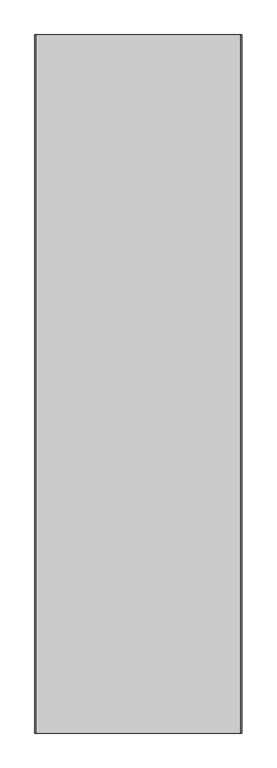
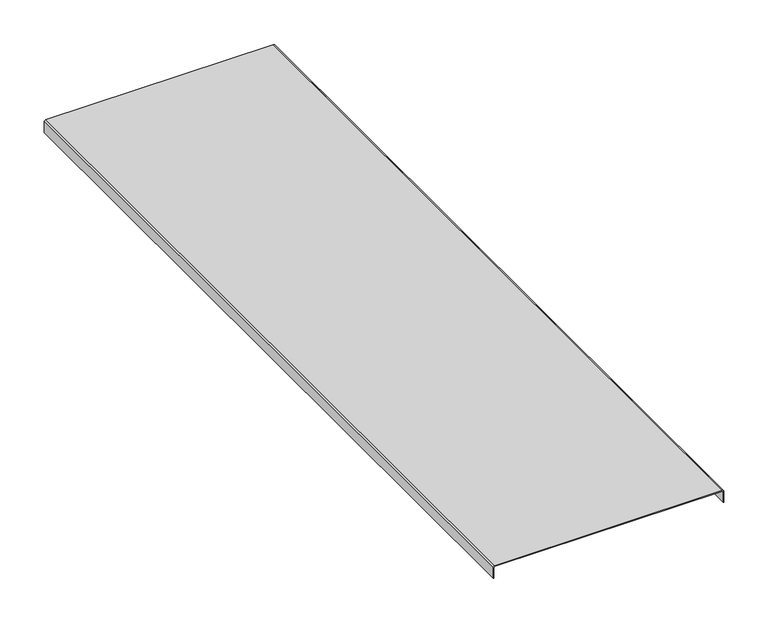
"""IFC4 building model written with IfcOpenShell, lengths in millimetres: proxy geometry, Cable_Tray_Cover_CT_Basorcanal : Basorcanal CT 100X300 (cover)."""

from ifc_helpers import new_model, si_unit, point, frame, frame_2d, origin, place, context, project, spatial, polyline, circle_curve, trimmed, segment, composite_curve, outline, extrude, source, transform, mapped, element, save


def generic_models_8f2ca061(model_context):
    return source(origin(), model_context, "Body", "SweptSolid", [
        extrude(outline(composite_curve([segment(trimmed(circle_curve(frame_2d((-1.0, -149.0)), 1.0), [point((-1.0, -150.0))], [point((0.0, -149.0))], True, "CARTESIAN"), True, "CONTINUOUS"), segment(polyline([(0.0, -149.0), (0.0, 149.0)]), True, "CONTINUOUS"), segment(trimmed(circle_curve(frame_2d((-1.0, 149.0)), 1.0), [point((0.0, 149.0))], [point((-1.0, 150.0))], True, "CARTESIAN"), True, "CONTINUOUS"), segment(polyline([(-1.0, 150.0), (-16.0, 150.0), (-16.0, 151.0), (-1.0, 151.0)]), True, "CONTINUOUS"), segment(trimmed(circle_curve(frame_2d((-1.0, 149.0)), 2.0), [point((-1.0, 151.0))], [point((1.0, 149.0))], False, "CARTESIAN"), True, "CONTINUOUS"), segment(polyline([(1.0, 149.0), (1.0, -149.0)]), True, "CONTINUOUS"), segment(trimmed(circle_curve(frame_2d((-1.0, -149.0)), 2.0), [point((1.0, -149.0))], [point((-1.0, -151.0))], False, "CARTESIAN"), True, "CONTINUOUS"), segment(polyline([(-1.0, -151.0), (-16.0, -151.0), (-16.0, -150.0), (-1.0, -150.0)]), True, "CONTINUOUS")], self_intersect=False)), frame((0.0, 0.0, 0.0), z_axis=(0.0, 1.0, 0.0), x_axis=(0.0, 0.0, 1.0)), (0.0, 0.0, 1.0), 1018.4),
    ])


if __name__ == "__main__":
    model = new_model("IFC4")
    model_context = context("Model", 3, world=origin())
    ifc_project = project(units=[si_unit("LENGTHUNIT", "METRE", prefix="MILLI")], contexts=[model_context])
    site = spatial("IfcSite", under=ifc_project)
    building = spatial("IfcBuilding", under=site)
    placement = place(None, origin())
    generic_models_shape = generic_models_8f2ca061(model_context)
    element("IfcBuildingElementProxy", 1, Name="Cable_Tray_Cover_CT_Basorcanal : Basorcanal CT 100X300 (cover)", ObjectType="Cable_Tray_Cover_CT_Basorcanal : Basorcanal CT 100X300 (cover)", at=placement, inside=building, context=model_context, shape_type="MappedRepresentation", body=[
        mapped(generic_models_shape, transform((0.0, 0.0, 0.0), x_axis=(1.0, 0.0, 0.0), y_axis=(0.0, 1.0, 0.0), z_axis=(0.0, 0.0, 1.0))),
    ])
    save(model, "model.ifc")
